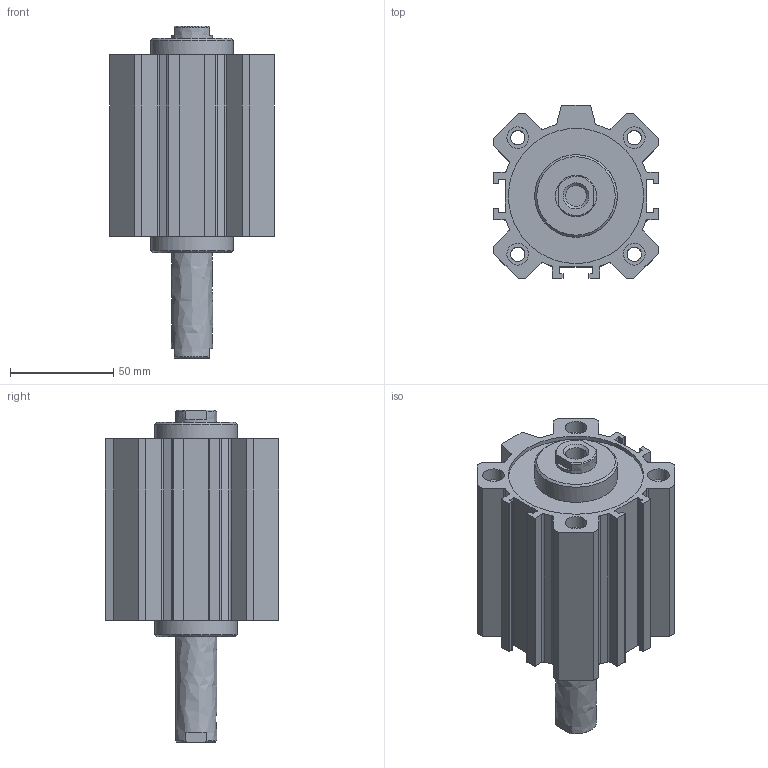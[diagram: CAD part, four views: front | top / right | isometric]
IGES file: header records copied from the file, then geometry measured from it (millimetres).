
Global section: file name: 1514_63_0045; native system: Autodesk Inventor 2014; preprocessor: unknown; author: A. Manieri; date: 20160824.140249; units: millimetre
Bounding box: 80 x 84 x 161 mm (x, y, z)
Volume: 354857.6 mm3; surface area: 98069.2 mm2
Topology: 2 solids, 2 shells, 178 faces, 482 edges, 328 vertices
Faces by surface type: bspline 178
